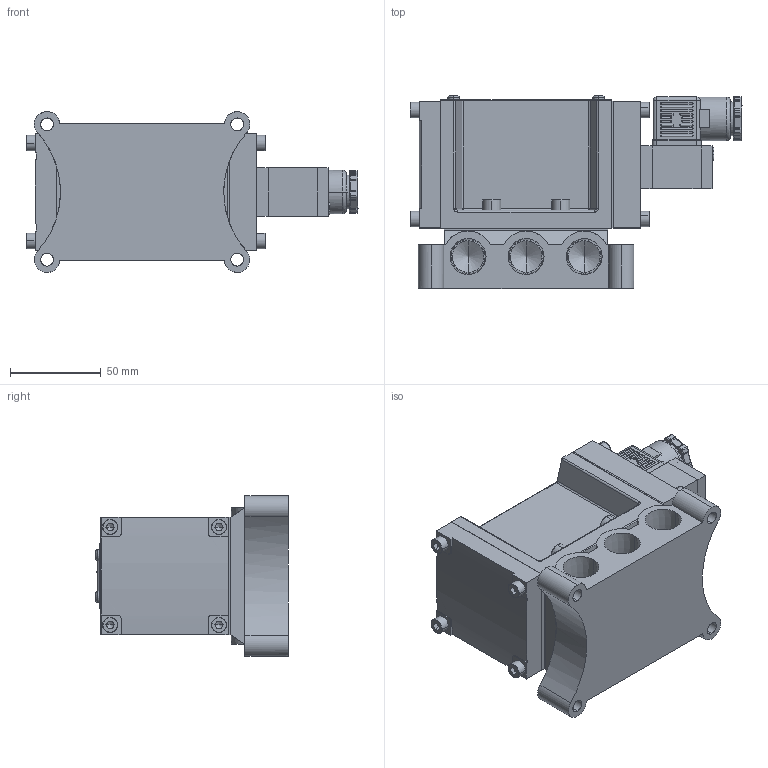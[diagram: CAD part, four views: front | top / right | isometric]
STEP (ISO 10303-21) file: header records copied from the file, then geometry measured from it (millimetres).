
FILE_DESCRIPTION (( 'STEP AP203' ), '1' );
FILE_NAME ('PMS2410#-04-#C#.STEP', '2016-03-09T08:42:57', ( 'Sam Lin' ), ( '' ), 'SwSTEP 2.0', 'SolidWorks 2013', '' );
FILE_SCHEMA (( 'CONFIG_CONTROL_DESIGN' ));
Length unit declared in the file: metre
Products named in the file (18): PM06-C4_1; ISO 4762 M6 x 20; PM06-C6-M3_1; PM06-C5_1; PMS2306-6(C); PMS2410-3; PMS2410-6(04); PMS2410-5; PMS2410#-04-#C#; PM10-MARK-2410; PMS2410-7; ISO 4762 M5 x 20; PMS2410-8; PMS2410-4; PM06-C3-M4_1; PMS2410-1; PM06-C1_1; PMS2410-2
Assembly tree (30 placements, depth 2):
  PMS2410#-04-#C#
    PMS2410-1
    PMS2410-2
    PMS2410-3
    PMS2410-4
    PMS2410-5
    ISO 4762 M5 x 20  x8
    PM06-C3-M4_1  x3
    ISO 4762 M6 x 20  x4
    PM10-MARK-2410
    PMS2410-7
    PMS2410-8
    PM06-C1_1
    PM06-C4_1
    PM06-C6-M3_1  x2
    PM06-C5_1
    PMS2306-6(C)
    PMS2410-6(04)
Bounding box: 183 x 106.35 x 88.61 mm (x, y, z)
Volume: 691286.9 mm3; surface area: 155410.1 mm2
Topology: 36 solids, 36 shells, 1171 faces, 2897 edges, 1706 vertices
Faces by surface type: plane 500, cylinder 322, bspline 238, cone 111
Entity records: 34484 total; most frequent: CARTESIAN_POINT 14695, ORIENTED_EDGE 3762, DIRECTION 3408, EDGE_CURVE 1881, AXIS2_PLACEMENT_3D 1250, VERTEX_POINT 1189, EDGE_LOOP 914, VECTOR 908
